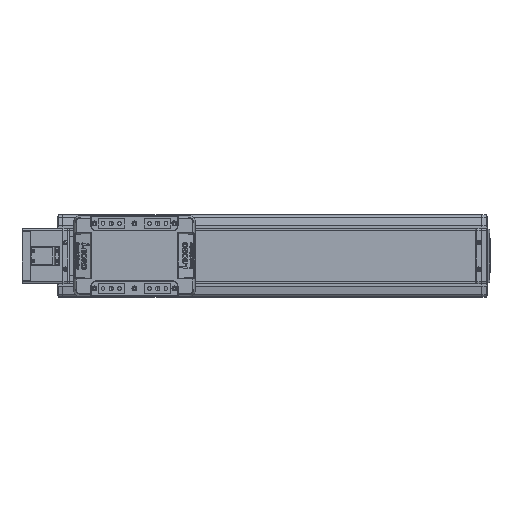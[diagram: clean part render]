
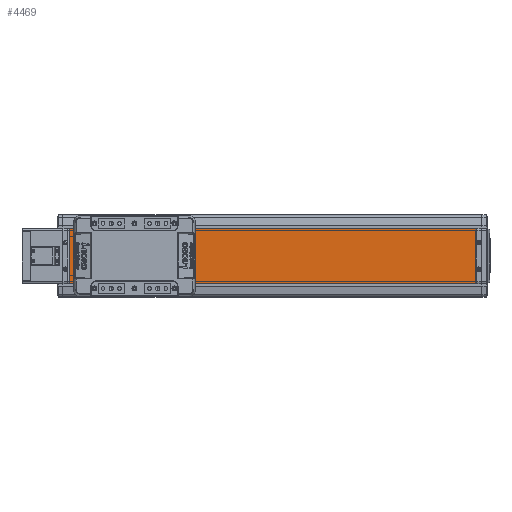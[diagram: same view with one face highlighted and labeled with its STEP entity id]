
A CAD part, top view. The second image highlights one B-rep face of the part: STEP entity #4469.
In plain terms, the highlighted planar face has unit normal (0, 0, 1).
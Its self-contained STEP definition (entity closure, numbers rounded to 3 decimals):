
#4469=ADVANCED_FACE('',(#11045),#11046,.F.);
#11045=FACE_OUTER_BOUND('',#20588,.T.);
#11046=PLANE('',#20589);
#20588=EDGE_LOOP('',(#34103,#34104,#34105,#34106));
#20589=AXIS2_PLACEMENT_3D('',#34107,#34108,#34109);
#34103=ORIENTED_EDGE('',*,*,#58447,.F.);
#34104=ORIENTED_EDGE('',*,*,#58448,.F.);
#34105=ORIENTED_EDGE('',*,*,#58449,.F.);
#34106=ORIENTED_EDGE('',*,*,#58450,.T.);
#34107=CARTESIAN_POINT('',(0.,0.,26.));
#34108=DIRECTION('',(0.,0.,-1.0));
#34109=DIRECTION('',(0.,1.0,0.));
#58447=EDGE_CURVE('',#70759,#70760,#70761,.T.);
#58448=EDGE_CURVE('',#70762,#70759,#70763,.T.);
#58449=EDGE_CURVE('',#70764,#70762,#70765,.T.);
#58450=EDGE_CURVE('',#70764,#70760,#70766,.T.);
#70759=VERTEX_POINT('',#87419);
#70760=VERTEX_POINT('',#87420);
#70761=LINE('',#87421,#87422);
#70762=VERTEX_POINT('',#87423);
#70763=LINE('',#87424,#87425);
#70764=VERTEX_POINT('',#87426);
#70765=LINE('',#87427,#87428);
#70766=LINE('',#87429,#87430);
#87419=CARTESIAN_POINT('',(760.0,50.,26.));
#87420=CARTESIAN_POINT('',(760.0,-50.,26.));
#87421=CARTESIAN_POINT('',(760.0,-50.,26.));
#87422=VECTOR('',#106117,10.0);
#87423=CARTESIAN_POINT('',(0.,50.,26.));
#87424=CARTESIAN_POINT('',(0.,50.,26.));
#87425=VECTOR('',#106118,10.0);
#87426=CARTESIAN_POINT('',(0.,-50.,26.));
#87427=CARTESIAN_POINT('',(0.,-50.,26.));
#87428=VECTOR('',#106119,10.0);
#87429=CARTESIAN_POINT('',(0.,-50.,26.));
#87430=VECTOR('',#106120,10.0);
#106117=DIRECTION('',(0.,-1.0,0.));
#106118=DIRECTION('',(1.0,0.,0.));
#106119=DIRECTION('',(0.,1.0,0.));
#106120=DIRECTION('',(1.0,0.,0.));
